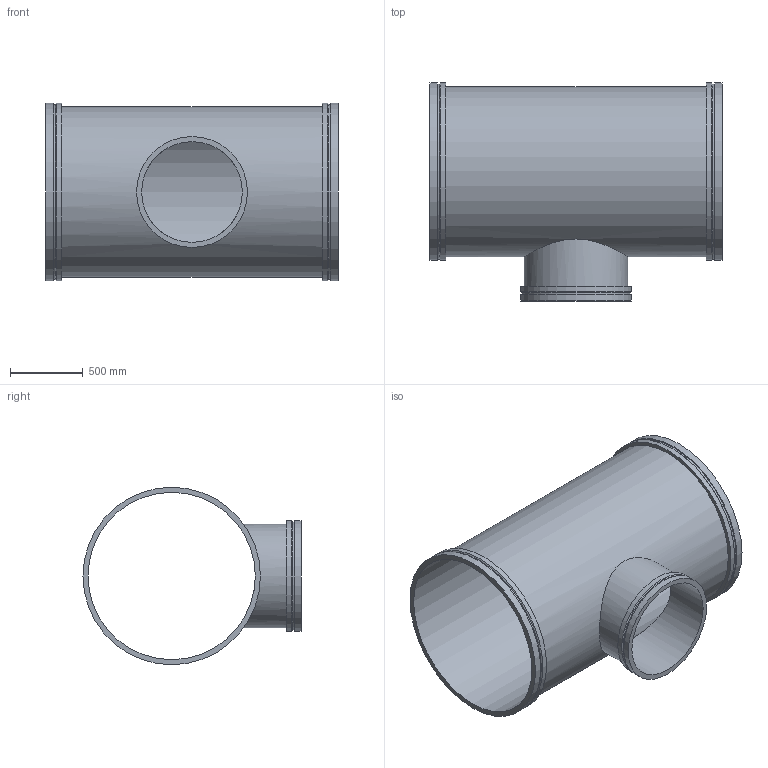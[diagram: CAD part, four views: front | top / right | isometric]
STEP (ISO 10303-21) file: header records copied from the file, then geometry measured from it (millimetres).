
FILE_DESCRIPTION(/* description */ ('VIC REDUCING TEE No W025 VR','CAx-IF Rec.Pracs.---Representation and Presentation of Product Manufacturing Information (PMI)---4.0---2014-10-13'),/* implementation_level */ '2;1');
FILE_NAME(/* name */ 'C:\Users\kkamble\AppData\Roaming\Autodesk\ApplicationPlugins\Back Up\Victaulic_Vic-Ring_Tee Reducing_No W25 VR (AGR)\Victaulic_Vic-Ring_Tee Reducing_No W25 VR (AGR)_46.0x28.0 (1150x700).stp',/* time_stamp */ '2020-09-10T11:56:35+05:00',/* author */ ('mchristi'),/* organization */ ('Victaulic'),/* preprocessor_version */ 'ST-DEVELOPER v17.2',/* originating_system */ 'Autodesk Inventor 2019',/* authorisation */ '');
FILE_SCHEMA (('AP242_MANAGED_MODEL_BASED_3D_ENGINEERING_MIM_LF { 1 0 10303 442 1 1 4 }'));
Length unit declared in the file: inch
Products named in the file (1): W25 VR-46.0x28.0
Bounding box: 2006.6 x 1498.6 x 1219.2 mm (x, y, z)
Volume: 98652139 mm3; surface area: 16164690.9 mm2
Topology: 1 solids, 1 shells, 25 faces, 68 edges, 52 vertices
Faces by surface type: cylinder 13, plane 9, cone 3
Full cylindrical faces by diameter (mm): 692.15 x1, 711.2 x1, 747.522 x1, 762 x2, 1149.35 x1, 1168.4 x1, 1203.325 x2, 1219.2 x4
Entity records: 1267 total; most frequent: CARTESIAN_POINT 423, DIRECTION 190, ORIENTED_EDGE 136, AXIS2_PLACEMENT_3D 87, EDGE_CURVE 68, VERTEX_POINT 52, CIRCLE 48, EDGE_LOOP 36
